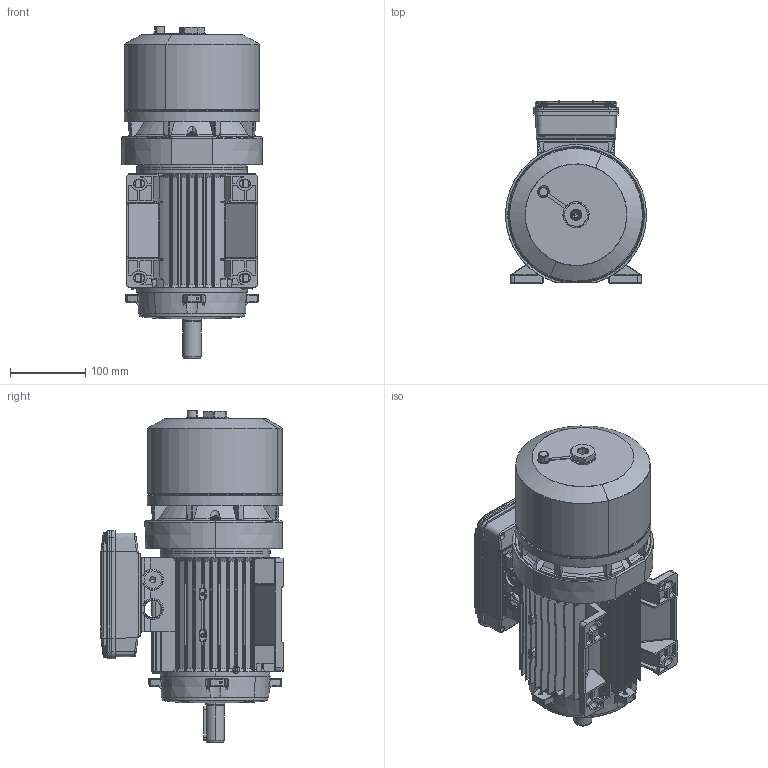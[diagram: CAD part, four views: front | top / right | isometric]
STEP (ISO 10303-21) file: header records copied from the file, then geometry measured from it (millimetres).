
FILE_DESCRIPTION (( 'STEP AP214' ), '1' );
FILE_NAME ('M02FA0013.STEP', '2019-09-10T09:02:09', ( '' ), ( '' ), 'SwSTEP 2.0', 'SolidWorks 2018', '' );
FILE_SCHEMA (( 'AUTOMOTIVE_DESIGN' ));
Length unit declared in the file: millimetre
Products named in the file (16): Cuffia serie BA 90; Convogliatore con pista d''attrito P2 BA90; Scudo Lato Freno BA90 P1 - DDAE0094; Carcassa 90 L B3; M02FA0013; Scatola per Morsettiera Doppia 90-100-112 - Completa; Guarnizione Coperchio Semplice Scatola BA 90 100 112 - DDAL0094; Vite a Testa Esagona con foro e tappo 71-112 - DBAX0094; Guarnizione Doppia Scatola Gr. 90 100 112 - DDAM0094; Vite  a testa bombata M4x16; Coperchio per Scatola per Morsettiera Doppia 90-100-112; Scatola per Morsettiera Doppia 90-100-112; O-ring freno BA 90; Scudo Lato Comando B3 BA-BM 90 - DDAD0094; Chiavetta 90; Albero BA 90 L
Assembly tree (18 placements, depth 3):
  M02FA0013
    Carcassa 90 L B3
    Scudo Lato Freno BA90 P1 - DDAE0094
    Convogliatore con pista d''attrito P2 BA90
    Cuffia serie BA 90
    Albero BA 90 L
    Chiavetta 90
    Scudo Lato Comando B3 BA-BM 90 - DDAD0094
    O-ring freno BA 90
    Scatola per Morsettiera Doppia 90-100-112 - Completa
      Scatola per Morsettiera Doppia 90-100-112
      Coperchio per Scatola per Morsettiera Doppia 90-100-112
      Vite  a testa bombata M4x16  x4
      Guarnizione Doppia Scatola Gr. 90 100 112 - DDAM0094
      Guarnizione Coperchio Semplice Scatola BA 90 100 112 - DDAL0094
    Vite a Testa Esagona con foro e tappo 71-112 - DBAX0094
Bounding box: 187 x 241.3 x 440 mm (x, y, z)
Volume: 1723992.5 mm3; surface area: 1029400.2 mm2
Topology: 17 solids, 17 shells, 4005 faces, 10766 edges, 6817 vertices
Faces by surface type: plane 1353, cylinder 1337, bspline 457, torus 439, cone 405, sphere 14
Entity records: 146396 total; most frequent: CARTESIAN_POINT 54513, ORIENTED_EDGE 20656, DIRECTION 17274, EDGE_CURVE 10328, VERTEX_POINT 6589, AXIS2_PLACEMENT_3D 6581, LINE 4112, VECTOR 4112
